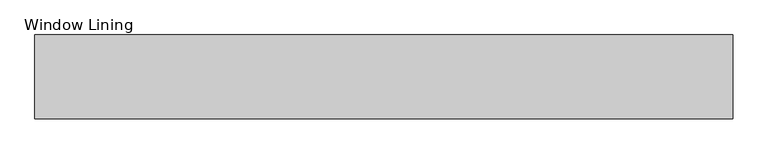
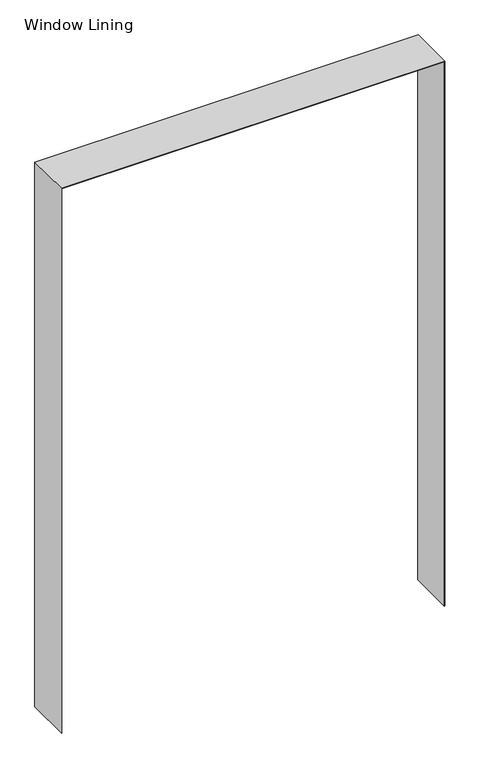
"""IFC4 building model written with IfcOpenShell, lengths in millimetres: proxy geometry, Dafa_ExFoil_Lining_Foil 2 x double adhesive-WallBased : Window Lining."""

from ifc_helpers import new_model, si_unit, frame, origin, place, context, project, spatial, polyline, outline, extrude, source, transform, mapped, element, save


def window_lining_efe981d6(model_context):
    return source(origin(), model_context, "Body", "SweptSolid", [
        extrude(outline(polyline([(1500.0, 625.0), (1500.0, -375.0), (0.0, -375.0), (0.0, -374.0), (1499.0, -374.0), (1499.0, 624.0), (0.0, 624.0), (0.0, 625.0), (1500.0, 625.0)])), frame((0.0, -150.0, 0.0), z_axis=(0.0, 1.0, 0.0), x_axis=(0.0, 0.0, 1.0)), (0.0, 0.0, 1.0), 120.0),
    ])


if __name__ == "__main__":
    model = new_model("IFC4")
    model_context = context("Model", 3, world=origin())
    ifc_project = project(units=[si_unit("LENGTHUNIT", "METRE", prefix="MILLI")], contexts=[model_context])
    site = spatial("IfcSite", under=ifc_project)
    building = spatial("IfcBuilding", under=site)
    placement = place(None, origin())
    window_lining_shape = window_lining_efe981d6(model_context)
    element("IfcBuildingElementProxy", 1, Name="Dafa_ExFoil_Lining_Foil 2 x double adhesive-WallBased : Window Lining", ObjectType="Dafa_ExFoil_Lining_Foil 2 x double adhesive-WallBased : Window Lining", at=placement, inside=building, context=model_context, shape_type="MappedRepresentation", body=[
        mapped(window_lining_shape, transform((0.0, 0.0, 0.0), x_axis=(1.0, 0.0, 0.0), y_axis=(0.0, 1.0, 0.0), z_axis=(0.0, 0.0, 1.0))),
    ])
    save(model, "model.ifc")
